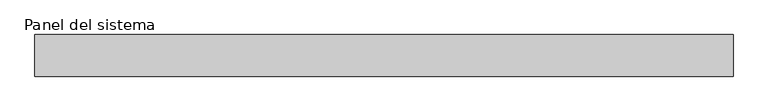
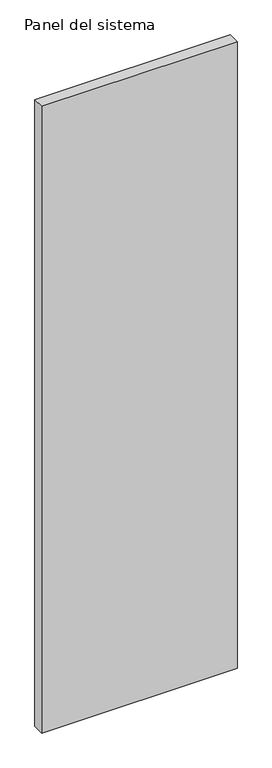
"""IFC4 building model written with IfcOpenShell, lengths in millimetres: plate geometry, Panel del sistema : HIANSA PANEL - PANELES DE CUBIERTA SIN TAPAJUNTA - EASY CUB 3GR - Esp. 60mm."""

from ifc_helpers import new_model, si_unit, origin, origin_with_axes, place, context, project, spatial, polyline, outline, extrude, source, transform, mapped, element, save


def panel_del_sistema_6d8fd6c0(model_context):
    return source(origin(), model_context, "Body", "SweptSolid", [
        extrude(outline(polyline([(500.0000002, 0.0), (-500.0000002, 0.0), (-500.0000002, 60.0), (500.0000002, 60.0), (500.0000002, 0.0)])), origin_with_axes(), (0.0, 0.0, 1.0), 3390.8509027),
    ])


if __name__ == "__main__":
    model = new_model("IFC4")
    model_context = context("Model", 3, world=origin())
    ifc_project = project(units=[si_unit("LENGTHUNIT", "METRE", prefix="MILLI")], contexts=[model_context])
    site = spatial("IfcSite", under=ifc_project)
    building = spatial("IfcBuilding", under=site)
    placement = place(None, origin())
    panel_del_sistema_shape = panel_del_sistema_6d8fd6c0(model_context)
    element("IfcPlate", 1, ObjectType="Panel del sistema : HIANSA PANEL - PANELES DE CUBIERTA SIN TAPAJUNTA - EASY CUB 3GR - Esp. 60mm", at=placement, inside=building, context=model_context, shape_type="MappedRepresentation", body=[
        mapped(panel_del_sistema_shape, transform((0.0, 0.0, 0.0), x_axis=(1.0, 0.0, 0.0), y_axis=(0.0, 1.0, 0.0), z_axis=(0.0, 0.0, 1.0))),
    ])
    save(model, "model.ifc")
